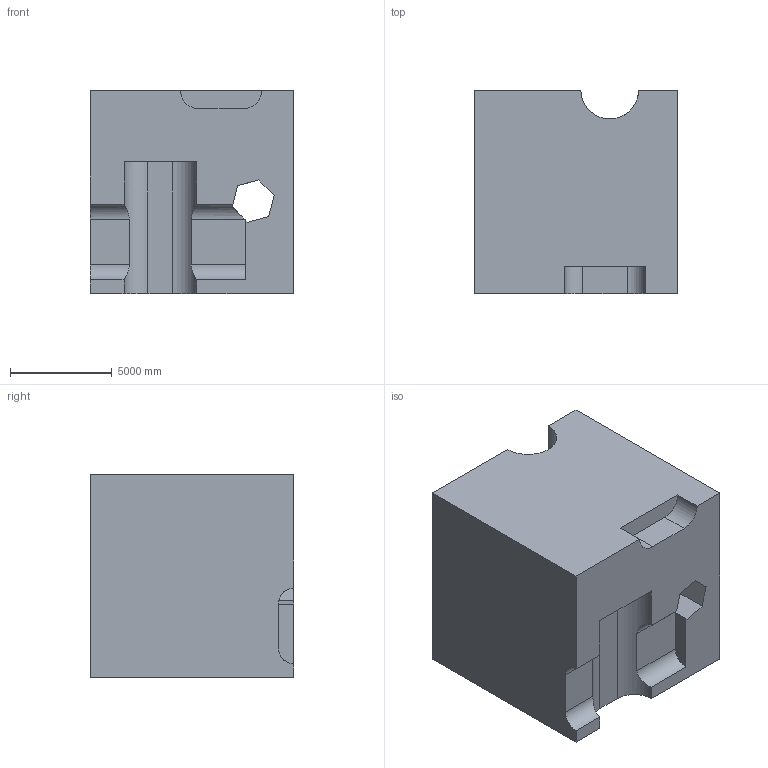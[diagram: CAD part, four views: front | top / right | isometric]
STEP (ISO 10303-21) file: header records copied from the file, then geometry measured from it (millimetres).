
FILE_DESCRIPTION (( 'STEP AP203' ), '1' );
FILE_NAME ('1528.STEP', '2022-08-18T15:04:40', ( 'user' ), ( '' ), 'SwSTEP 2.0', 'SolidWorks 2021', '' );
FILE_SCHEMA (( 'CONFIG_CONTROL_DESIGN' ));
Length unit declared in the file: centimetre
Products named in the file (1): 1528
Bounding box: 10000 x 10000 x 10000 mm (x, y, z)
Volume: 890351845002.4 mm3; surface area: 677583844 mm2
Topology: 1 solids, 1 shells, 34 faces, 102 edges, 68 vertices
Faces by surface type: plane 24, cylinder 10
Entity records: 1435 total; most frequent: CARTESIAN_POINT 443, ORIENTED_EDGE 204, DIRECTION 178, EDGE_CURVE 102, LINE 76, VECTOR 76, VERTEX_POINT 68, AXIS2_PLACEMENT_3D 51
